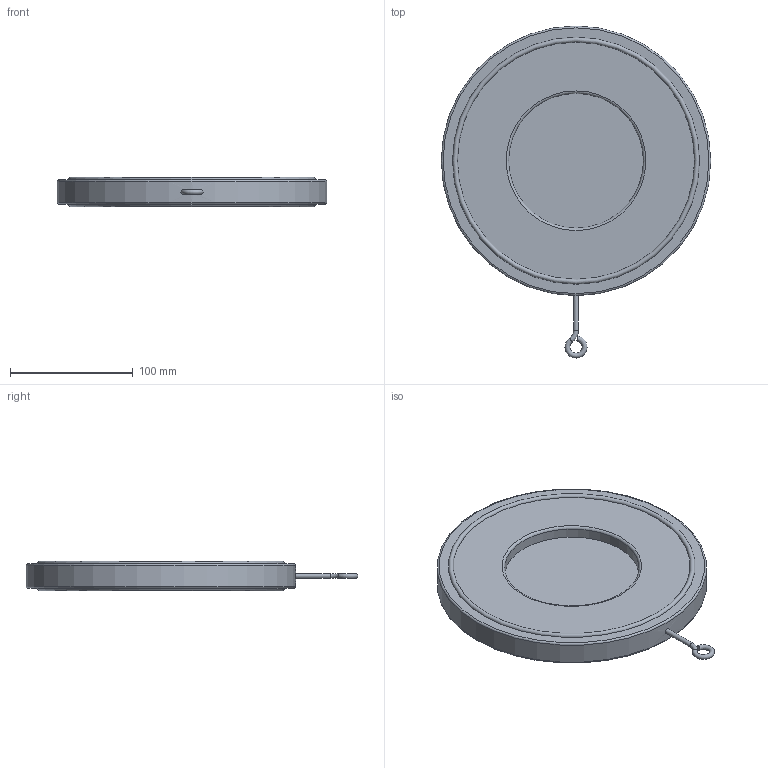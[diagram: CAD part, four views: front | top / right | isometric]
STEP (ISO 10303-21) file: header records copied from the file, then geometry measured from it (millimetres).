
FILE_DESCRIPTION( ( 'Unknown' ), '1' );
FILE_NAME( 'C:/Documents and Settings/Klaus/My Documents/Rootsi BPS 3D, Klaus/BPS 6505 swing check valve/STEP/BPS6505150 swing check valve DN150.stp', 'Unknown', ( 'Unknown' ), ( 'Unknown' ), 'PSStep 10.1', 'Unknown', ' ' );
FILE_SCHEMA( ( 'AUTOMOTIVE_DESIGN { 1 0 10303 214 1 1 1 1 }' ) );
Length unit declared in the file: millimetre
Products named in the file (1): 1
Bounding box: 220 x 270.98 x 24 mm (x, y, z)
Volume: 656616 mm3; surface area: 105299.3 mm2
Topology: 1 solids, 1 shells, 228 faces, 584 edges, 381 vertices
Faces by surface type: plane 152, extrusion 51, cylinder 13, torus 11, cone 1
Full cylindrical faces by diameter (mm): 4 x1, 14 x2, 110 x1, 220 x1
Entity records: 10287 total; most frequent: CARTESIAN_POINT 3519, ORIENTED_EDGE 1124, DIRECTION 732, EDGE_CURVE 562, VERTEX_POINT 377, B_SPLINE_CURVE_WITH_KNOTS 344, EDGE_LOOP 281, VECTOR 264
